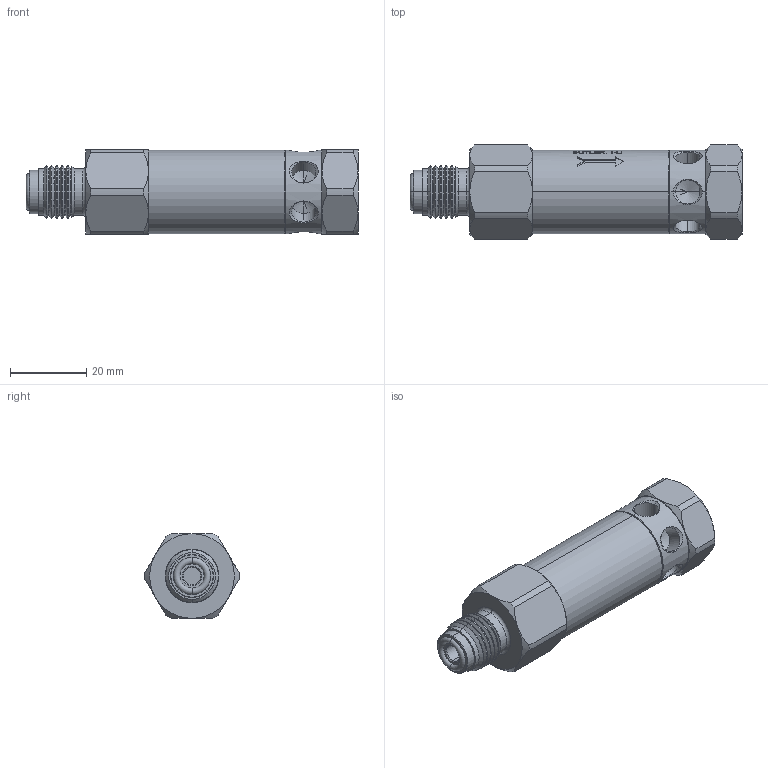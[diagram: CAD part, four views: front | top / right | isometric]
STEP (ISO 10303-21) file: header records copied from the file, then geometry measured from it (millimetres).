
FILE_DESCRIPTION (( 'STEP AP203' ), '1' );
FILE_NAME ('IRVD-4V.STEP', '2020-08-13T13:00:29', ( '' ), ( '' ), 'SwSTEP 2.0', 'SolidWorks 2020', '' );
FILE_SCHEMA (( 'CONFIG_CONTROL_DESIGN' ));
Length unit declared in the file: inch
Products named in the file (2): IRVD-4V; Part18^IRVD-4V
Assembly tree (1 placements, depth 2):
  IRVD-4V
    Part18^IRVD-4V
Bounding box: 87.1 x 24.76 x 22.23 mm (x, y, z)
Volume: 28657.6 mm3; surface area: 7532.9 mm2
Topology: 1 solids, 1 shells, 382 faces, 950 edges, 592 vertices
Faces by surface type: plane 151, cone 80, cylinder 77, bspline 70, torus 4
Entity records: 16497 total; most frequent: CARTESIAN_POINT 7861, ORIENTED_EDGE 1876, DIRECTION 1548, EDGE_CURVE 938, AXIS2_PLACEMENT_3D 592, VERTEX_POINT 592, EDGE_LOOP 416, ADVANCED_FACE 382
